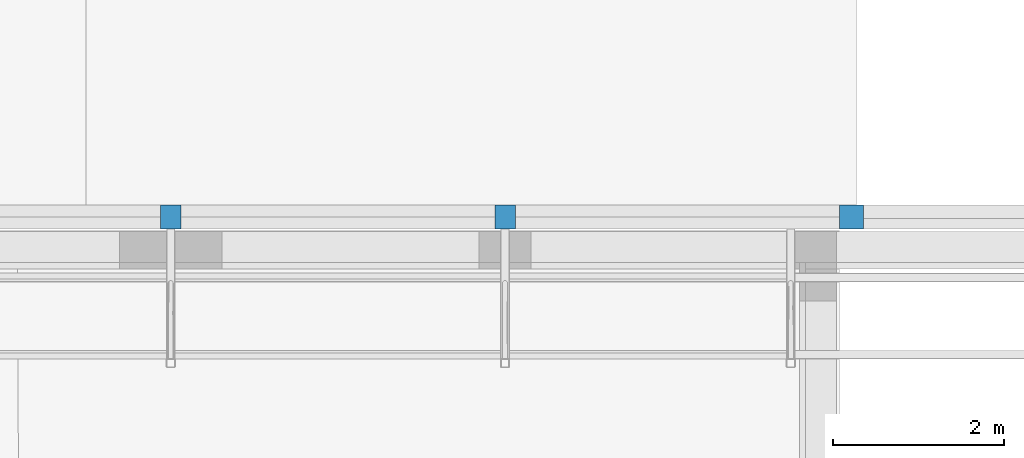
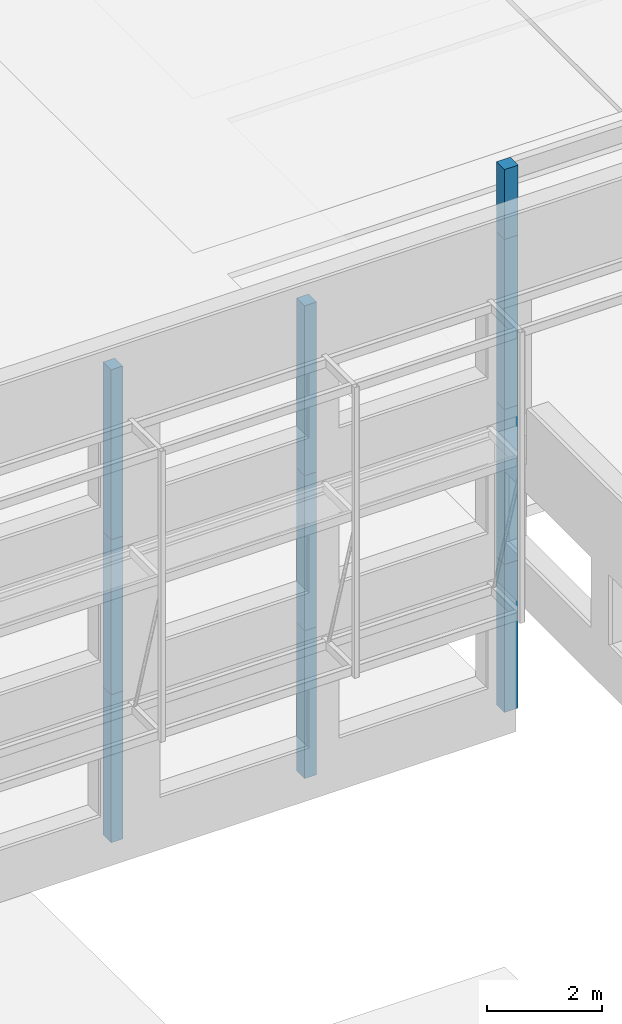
# One storey, part 4 of 78: 10 columns, 10 elements without a shape of their own.
"""IFC2X3 building model written with IfcOpenShell, lengths in millimetres."""

from ifc_helpers import new_model, si_unit, frame, origin_with_axes, origin_2d_with_axis, place, context, subcontext, project, spatial, rectangle, extrude, material, type_object, element, aggregate, save


model = new_model("IFC2X3")

# Units and contexts
model_context = context("Model", 3, precision=1e-05, world=origin_with_axes())
body_context = subcontext(model_context, "Body", "Model", "MODEL_VIEW")
ifc_project = project(units=[si_unit("LENGTHUNIT", "METRE", prefix="MILLI"), si_unit("AREAUNIT", "SQUARE_METRE"), si_unit("VOLUMEUNIT", "CUBIC_METRE"), si_unit("MASSUNIT", "GRAM", prefix="KILO"), si_unit("TIMEUNIT", "SECOND"), si_unit("PLANEANGLEUNIT", "RADIAN"), si_unit("SOLIDANGLEUNIT", "STERADIAN"), si_unit("THERMODYNAMICTEMPERATUREUNIT", "DEGREE_CELSIUS"), si_unit("LUMINOUSINTENSITYUNIT", "LUMEN")], contexts=[model_context])

# Site, building, storey
site_placement = place(None, origin_with_axes())
site = spatial("IfcSite", under=ifc_project, at=site_placement, Name="Site", CompositionType="ELEMENT")
building_placement = place(site_placement, origin_with_axes())
building = spatial("IfcBuilding", under=site, at=building_placement, Name="Undefined", CompositionType="ELEMENT")
storey_placement = place(building_placement, origin_with_axes())
storey = spatial("IfcBuildingStorey", under=building, at=storey_placement, Name="Undefined", CompositionType="ELEMENT", Elevation=0.0)

# Assembly, column
assembly_1_placement = place(storey_placement, origin_with_axes())
assembly_1 = element("IfcElementAssembly", 1, at=assembly_1_placement, inside=storey, Name="POUTRE", AssemblyPlace="NOTDEFINED", PredefinedType="NOTDEFINED")
ifc_material = material(Name="TIMBER/CHENE")
column_type_1 = type_object("IfcColumnType", Name="240*280", PredefinedType="NOTDEFINED")
column_1_placement = place(assembly_1_placement, frame((-14883.4325027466, -6955.00101089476, 159850.03746582), z_axis=(0.0, 0.0, 1.0), x_axis=(-1.0, 0.0, 0.0)))
column_1 = element("IfcColumn", 2, at=column_1_placement, type_object=column_type_1, material=ifc_material, Name="POUTRE", ObjectType="240*280", context=body_context, shape_type="SweptSolid", body=[
    extrude(rectangle(XDim=280.0, YDim=240.0, at=origin_2d_with_axis()), frame((0.0, 0.0, 3620.01389648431), z_axis=(0.0, 0.0, -1.0), x_axis=(0.0, 1.0, 0.0)), (0.0, 0.0, 1.0), 3620.01),
])
aggregate(assembly_1, [column_1])

assembly_2_placement = place(storey_placement, origin_with_axes())
assembly_2 = element("IfcElementAssembly", 3, at=assembly_2_placement, inside=storey, Name="POUTRE", AssemblyPlace="NOTDEFINED", PredefinedType="NOTDEFINED")
column_2_placement = place(assembly_2_placement, frame((-10983.4327932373, -6955.00083281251, 159850.037954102), z_axis=(0.0, 0.0, 1.0), x_axis=(-1.0, 0.0, 0.0)))
column_2 = element("IfcColumn", 4, at=column_2_placement, type_object=column_type_1, material=ifc_material, Name="POUTRE", ObjectType="240*280", context=body_context, shape_type="SweptSolid", body=[
    extrude(rectangle(XDim=280.0, YDim=240.0, at=origin_2d_with_axis()), frame((0.0, 0.0, 3620.01389648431), z_axis=(0.0, 0.0, -1.0), x_axis=(0.0, 1.0, 0.0)), (0.0, 0.0, 1.0), 3620.01),
])
aggregate(assembly_2, [column_2])

assembly_3_placement = place(storey_placement, origin_with_axes())
assembly_3 = element("IfcElementAssembly", 5, at=assembly_3_placement, inside=storey, Name="POUTRE", AssemblyPlace="NOTDEFINED", PredefinedType="NOTDEFINED")
column_3_placement = place(assembly_3_placement, frame((-14883.4325027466, -6955.00101089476, 156550.033569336), z_axis=(0.0, 0.0, 1.0), x_axis=(-1.0, 0.0, 0.0)))
column_3 = element("IfcColumn", 6, at=column_3_placement, type_object=column_type_1, material=ifc_material, Name="POUTRE", ObjectType="240*280", context=body_context, shape_type="SweptSolid", body=[
    extrude(rectangle(XDim=280.0, YDim=240.0, at=origin_2d_with_axis()), frame((0.0, 0.0, 3300.0038964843), z_axis=(0.0, 0.0, -1.0), x_axis=(0.0, 1.0, 0.0)), (0.0, 0.0, 1.0), 3300.0),
])
aggregate(assembly_3, [column_3])

assembly_4_placement = place(storey_placement, origin_with_axes())
assembly_4 = element("IfcElementAssembly", 7, at=assembly_4_placement, inside=storey, Name="POUTRE", AssemblyPlace="NOTDEFINED", PredefinedType="NOTDEFINED")
column_4_placement = place(assembly_4_placement, frame((-10983.4327932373, -6955.00083281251, 156550.034057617), z_axis=(0.0, 0.0, 1.0), x_axis=(-1.0, 0.0, 0.0)))
column_4 = element("IfcColumn", 8, at=column_4_placement, type_object=column_type_1, material=ifc_material, Name="POUTRE", ObjectType="240*280", context=body_context, shape_type="SweptSolid", body=[
    extrude(rectangle(XDim=280.0, YDim=240.0, at=origin_2d_with_axis()), frame((0.0, 0.0, 3300.0038964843), z_axis=(0.0, 0.0, -1.0), x_axis=(0.0, 1.0, 0.0)), (0.0, 0.0, 1.0), 3300.0),
])
aggregate(assembly_4, [column_4])

assembly_5_placement = place(storey_placement, origin_with_axes())
assembly_5 = element("IfcElementAssembly", 9, at=assembly_5_placement, inside=storey, Name="POUTRE", AssemblyPlace="NOTDEFINED", PredefinedType="NOTDEFINED")
column_5_placement = place(assembly_5_placement, frame((-14883.4325027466, -6955.00101089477, 153400.039672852), z_axis=(0.0, 0.0, 1.0), x_axis=(-1.0, 0.0, 0.0)))
column_5 = element("IfcColumn", 10, at=column_5_placement, type_object=column_type_1, material=ifc_material, Name="POUTRE", ObjectType="240*280", context=body_context, shape_type="SweptSolid", body=[
    extrude(rectangle(XDim=280.0, YDim=240.0, at=origin_2d_with_axis()), frame((0.0, 0.0, 3149.99389648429), z_axis=(0.0, 0.0, -1.0), x_axis=(0.0, 1.0, 0.0)), (0.0, 0.0, 1.0), 3149.99),
])
aggregate(assembly_5, [column_5])

assembly_6_placement = place(storey_placement, origin_with_axes())
assembly_6 = element("IfcElementAssembly", 11, at=assembly_6_placement, inside=storey, Name="POUTRE", AssemblyPlace="NOTDEFINED", PredefinedType="NOTDEFINED")
column_6_placement = place(assembly_6_placement, frame((-10983.4327932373, -6955.00083281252, 153400.040161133), z_axis=(0.0, 0.0, 1.0), x_axis=(-1.0, 0.0, 0.0)))
column_6 = element("IfcColumn", 12, at=column_6_placement, type_object=column_type_1, material=ifc_material, Name="POUTRE", ObjectType="240*280", context=body_context, shape_type="SweptSolid", body=[
    extrude(rectangle(XDim=280.0, YDim=240.0, at=origin_2d_with_axis()), frame((0.0, 0.0, 3149.99389648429), z_axis=(0.0, 0.0, -1.0), x_axis=(0.0, 1.0, 0.0)), (0.0, 0.0, 1.0), 3149.99),
])
aggregate(assembly_6, [column_6])

assembly_7_placement = place(storey_placement, origin_with_axes())
assembly_7 = element("IfcElementAssembly", 13, at=assembly_7_placement, inside=storey, Name="POUTRE", AssemblyPlace="NOTDEFINED", PredefinedType="NOTDEFINED")
column_type_2 = type_object("IfcColumnType", Name="280*280", PredefinedType="NOTDEFINED")
column_7_placement = place(assembly_7_placement, frame((-6943.43341827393, -6955.00101089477, 163470.041362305), z_axis=(0.0, 0.0, 1.0), x_axis=(-1.0, 0.0, 0.0)))
column_7 = element("IfcColumn", 14, at=column_7_placement, type_object=column_type_2, material=ifc_material, Name="POUTRE", ObjectType="280*280", context=body_context, shape_type="SweptSolid", body=[
    extrude(rectangle(XDim=280.0, YDim=280.0, at=origin_2d_with_axis()), frame((0.0, 0.0, 1490.0038964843), z_axis=(0.0, 0.0, -1.0), x_axis=(0.0, 1.0, 0.0)), (0.0, 0.0, 1.0), 1490.0),
])
aggregate(assembly_7, [column_7])

assembly_8_placement = place(storey_placement, origin_with_axes())
assembly_8 = element("IfcElementAssembly", 15, at=assembly_8_placement, inside=storey, Name="POUTRE", AssemblyPlace="NOTDEFINED", PredefinedType="NOTDEFINED")
column_8_placement = place(assembly_8_placement, frame((-6943.43341827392, -6955.00101089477, 159850.03746582), z_axis=(0.0, 0.0, 1.0), x_axis=(-1.0, 0.0, 0.0)))
column_8 = element("IfcColumn", 16, at=column_8_placement, type_object=column_type_2, material=ifc_material, Name="POUTRE", ObjectType="280*280", context=body_context, shape_type="SweptSolid", body=[
    extrude(rectangle(XDim=280.0, YDim=280.0, at=origin_2d_with_axis()), frame((0.0, 0.0, 3620.0038964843), z_axis=(0.0, 0.0, -1.0), x_axis=(0.0, 1.0, 0.0)), (0.0, 0.0, 1.0), 3620.0),
])
aggregate(assembly_8, [column_8])

assembly_9_placement = place(storey_placement, origin_with_axes())
assembly_9 = element("IfcElementAssembly", 17, at=assembly_9_placement, inside=storey, Name="POUTRE", AssemblyPlace="NOTDEFINED", PredefinedType="NOTDEFINED")
column_9_placement = place(assembly_9_placement, frame((-6943.43341827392, -6955.00101089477, 156550.033569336), z_axis=(0.0, 0.0, 1.0), x_axis=(-1.0, 0.0, 0.0)))
column_9 = element("IfcColumn", 18, at=column_9_placement, type_object=column_type_2, material=ifc_material, Name="POUTRE", ObjectType="280*280", context=body_context, shape_type="SweptSolid", body=[
    extrude(rectangle(XDim=280.0, YDim=280.0, at=origin_2d_with_axis()), frame((0.0, 0.0, 3300.0038964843), z_axis=(0.0, 0.0, -1.0), x_axis=(0.0, 1.0, 0.0)), (0.0, 0.0, 1.0), 3300.0),
])
aggregate(assembly_9, [column_9])

assembly_10_placement = place(storey_placement, origin_with_axes())
assembly_10 = element("IfcElementAssembly", 19, at=assembly_10_placement, inside=storey, Name="POUTRE", AssemblyPlace="NOTDEFINED", PredefinedType="NOTDEFINED")
column_10_placement = place(assembly_10_placement, frame((-6943.43341827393, -6955.00101089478, 153400.039672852), z_axis=(0.0, 0.0, 1.0), x_axis=(-1.0, 0.0, 0.0)))
column_10 = element("IfcColumn", 20, at=column_10_placement, type_object=column_type_2, material=ifc_material, Name="POUTRE", ObjectType="280*280", context=body_context, shape_type="SweptSolid", body=[
    extrude(rectangle(XDim=280.0, YDim=280.0, at=origin_2d_with_axis()), frame((0.0, 0.0, 3149.99389648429), z_axis=(0.0, 0.0, -1.0), x_axis=(0.0, 1.0, 0.0)), (0.0, 0.0, 1.0), 3149.99),
])
aggregate(assembly_10, [column_10])

save(model, "model.ifc")
